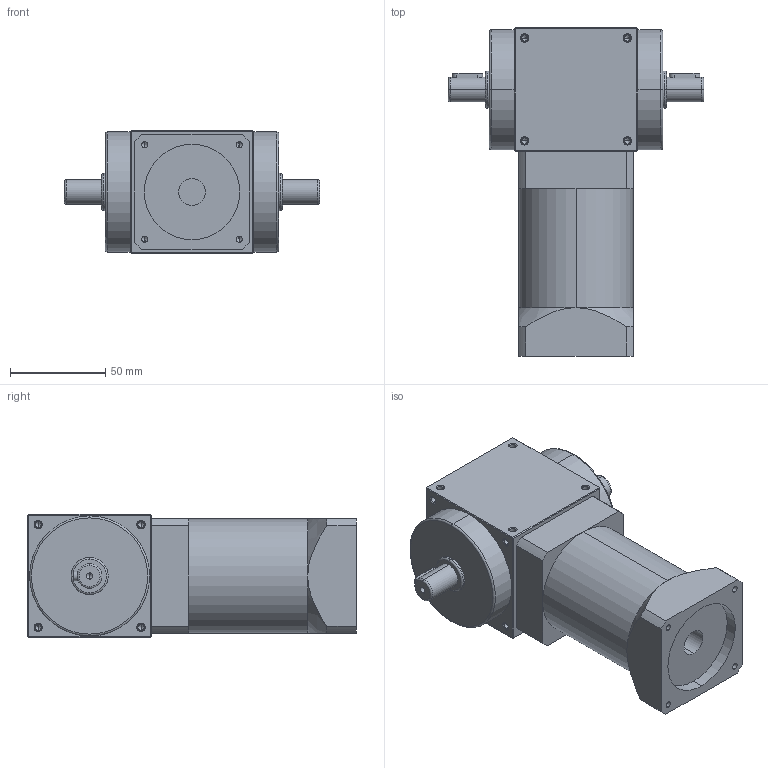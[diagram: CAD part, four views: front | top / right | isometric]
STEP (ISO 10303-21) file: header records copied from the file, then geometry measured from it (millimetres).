
FILE_DESCRIPTION (( 'STEP AP214' ), '1' );
FILE_NAME ('AT065-FL-L2-400W.STEP', '2020-06-16T03:40:50', ( 'User' ), ( 'Far123' ), 'SwSTEP 2.0', 'SolidWorks 2015', '' );
FILE_SCHEMA (( 'AUTOMOTIVE_DESIGN' ));
Length unit declared in the file: millimetre
Products named in the file (1): AT065-FL-L2-400W
Bounding box: 134 x 172.5 x 65 mm (x, y, z)
Volume: 679168.3 mm3; surface area: 59500.6 mm2
Topology: 1 solids, 2 shells, 295 faces, 724 edges, 394 vertices
Faces by surface type: cylinder 124, cone 100, plane 59, torus 12
Entity records: 9442 total; most frequent: CARTESIAN_POINT 1946, DIRECTION 1376, ORIENTED_EDGE 1344, EDGE_CURVE 672, AXIS2_PLACEMENT_3D 532, VERTEX_POINT 394, EDGE_LOOP 332, LINE 312
